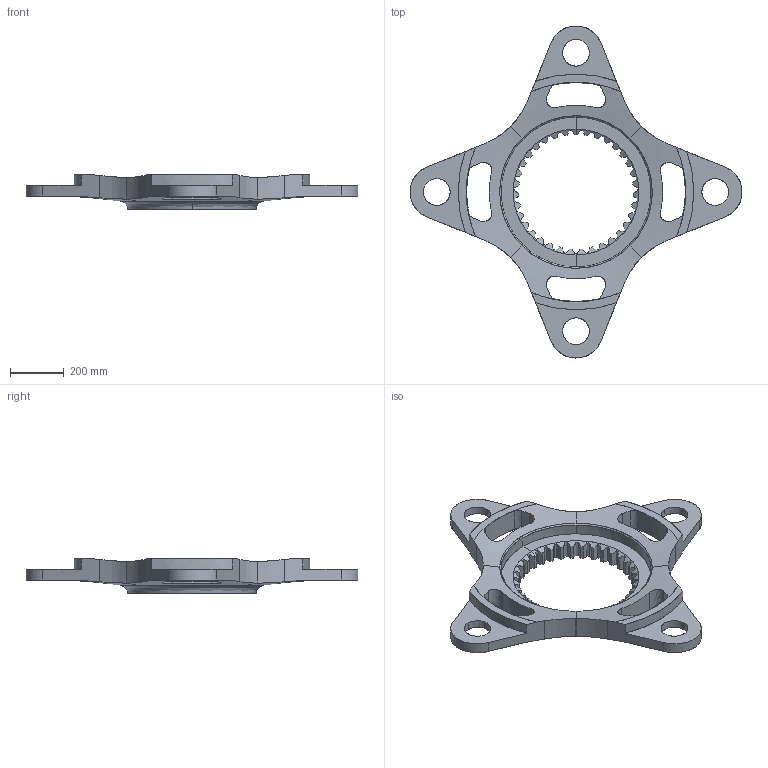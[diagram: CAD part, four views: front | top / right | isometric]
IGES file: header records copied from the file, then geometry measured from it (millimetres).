
Start section: Autodesk Alias AutoStudio 2024 (Build: 202306201258-5f835e24a99) Autodesk Translation Framework 12.11.0.120
Global section: file name: Spider_v2; native system: unknown; preprocessor: unknown; author: unknown; organization: unknown; date: 20260414.102654; units: centimetre
Bounding box: 1240 x 1240 x 130 mm (x, y, z)
Surface area: 3458274.8 mm2 (no closed solid volume)
Topology: 0 solids, 10 shells, 264 faces, 1862 edges, 1842 vertices
Faces by surface type: bspline 264
